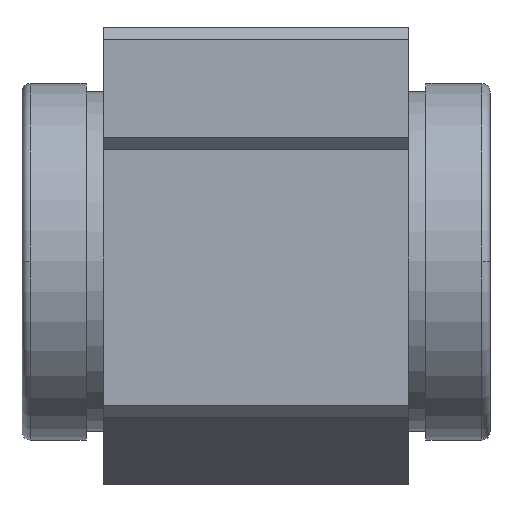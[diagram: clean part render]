
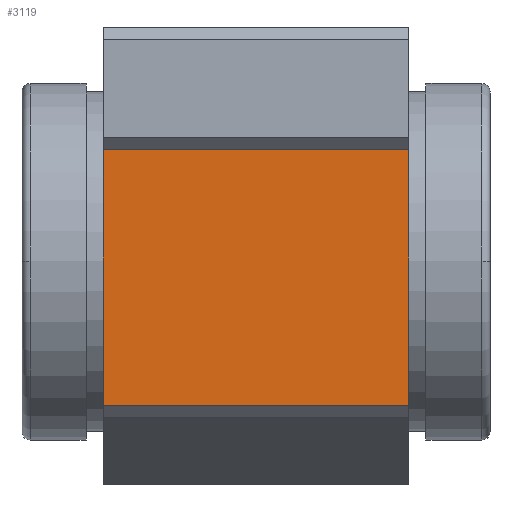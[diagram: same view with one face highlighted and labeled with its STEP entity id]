
A CAD part, top view. The second image highlights one B-rep face of the part: STEP entity #3119.
In plain terms, the highlighted planar face has unit normal (0, 0, 1).
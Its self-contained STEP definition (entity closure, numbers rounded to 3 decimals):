
#859 = PLANE('',#860);
#860 = AXIS2_PLACEMENT_3D('',#861,#862,#863);
#861 = CARTESIAN_POINT('',(13.7,2.686,0.));
#862 = DIRECTION('',(1.,0.,0.));
#863 = DIRECTION('',(0.,0.,-1.));
#975 = PLANE('',#976);
#976 = AXIS2_PLACEMENT_3D('',#977,#978,#979);
#977 = CARTESIAN_POINT('',(-13.7,2.686,0.));
#978 = DIRECTION('',(1.,0.,0.));
#979 = DIRECTION('',(0.,0.,-1.));
#3010 = PLANE('',#3011);
#3011 = AXIS2_PLACEMENT_3D('',#3012,#3013,#3014);
#3012 = CARTESIAN_POINT('',(-13.7,-13.46,25.38));
#3013 = DIRECTION('',(0.,-0.707,0.707)
  );
#3014 = DIRECTION('',(0.,-0.707,-0.707)
  );
#3048 = VERTEX_POINT('',#3049);
#3049 = CARTESIAN_POINT('',(13.7,-12.92,25.92));
#3070 = EDGE_CURVE('',#3071,#3048,#3073,.T.);
#3071 = VERTEX_POINT('',#3072);
#3072 = CARTESIAN_POINT('',(-13.7,-12.92,25.92));
#3073 = SURFACE_CURVE('',#3074,(#3078,#3085),.PCURVE_S1.);
#3074 = LINE('',#3075,#3076);
#3075 = CARTESIAN_POINT('',(-13.7,-12.92,25.92));
#3076 = VECTOR('',#3077,1.);
#3077 = DIRECTION('',(1.,0.,0.));
#3078 = PCURVE('',#3010,#3079);
#3079 = DEFINITIONAL_REPRESENTATION('',(#3080),#3084);
#3080 = LINE('',#3081,#3082);
#3081 = CARTESIAN_POINT('',(-0.764,0.));
#3082 = VECTOR('',#3083,1.);
#3083 = DIRECTION('',(0.,1.));
#3084 = ( GEOMETRIC_REPRESENTATION_CONTEXT(2) 
PARAMETRIC_REPRESENTATION_CONTEXT() REPRESENTATION_CONTEXT('2D SPACE',''
  ) );
#3085 = PCURVE('',#3086,#3091);
#3086 = PLANE('',#3087);
#3087 = AXIS2_PLACEMENT_3D('',#3088,#3089,#3090);
#3088 = CARTESIAN_POINT('',(-13.7,-1.46,25.92));
#3089 = DIRECTION('',(0.,0.,1.));
#3090 = DIRECTION('',(0.,-1.,0.));
#3091 = DEFINITIONAL_REPRESENTATION('',(#3092),#3096);
#3092 = LINE('',#3093,#3094);
#3093 = CARTESIAN_POINT('',(11.46,0.));
#3094 = VECTOR('',#3095,1.);
#3095 = DIRECTION('',(0.,1.));
#3096 = ( GEOMETRIC_REPRESENTATION_CONTEXT(2) 
PARAMETRIC_REPRESENTATION_CONTEXT() REPRESENTATION_CONTEXT('2D SPACE',''
  ) );
#3119 = ADVANCED_FACE('',(#3120),#3086,.T.);
#3120 = FACE_BOUND('',#3121,.T.);
#3121 = EDGE_LOOP('',(#3122,#3145,#3173,#3194));
#3122 = ORIENTED_EDGE('',*,*,#3123,.T.);
#3123 = EDGE_CURVE('',#3048,#3124,#3126,.T.);
#3124 = VERTEX_POINT('',#3125);
#3125 = CARTESIAN_POINT('',(13.7,10.,25.92));
#3126 = SURFACE_CURVE('',#3127,(#3131,#3138),.PCURVE_S1.);
#3127 = LINE('',#3128,#3129);
#3128 = CARTESIAN_POINT('',(13.7,10.,25.92));
#3129 = VECTOR('',#3130,1.);
#3130 = DIRECTION('',(0.,1.,0.));
#3131 = PCURVE('',#3086,#3132);
#3132 = DEFINITIONAL_REPRESENTATION('',(#3133),#3137);
#3133 = LINE('',#3134,#3135);
#3134 = CARTESIAN_POINT('',(-11.46,27.4));
#3135 = VECTOR('',#3136,1.);
#3136 = DIRECTION('',(-1.,0.));
#3137 = ( GEOMETRIC_REPRESENTATION_CONTEXT(2) 
PARAMETRIC_REPRESENTATION_CONTEXT() REPRESENTATION_CONTEXT('2D SPACE',''
  ) );
#3138 = PCURVE('',#859,#3139);
#3139 = DEFINITIONAL_REPRESENTATION('',(#3140),#3144);
#3140 = LINE('',#3141,#3142);
#3141 = CARTESIAN_POINT('',(-25.92,7.314));
#3142 = VECTOR('',#3143,1.);
#3143 = DIRECTION('',(0.,1.));
#3144 = ( GEOMETRIC_REPRESENTATION_CONTEXT(2) 
PARAMETRIC_REPRESENTATION_CONTEXT() REPRESENTATION_CONTEXT('2D SPACE',''
  ) );
#3145 = ORIENTED_EDGE('',*,*,#3146,.F.);
#3146 = EDGE_CURVE('',#3147,#3124,#3149,.T.);
#3147 = VERTEX_POINT('',#3148);
#3148 = CARTESIAN_POINT('',(-13.7,10.,25.92));
#3149 = SURFACE_CURVE('',#3150,(#3154,#3161),.PCURVE_S1.);
#3150 = LINE('',#3151,#3152);
#3151 = CARTESIAN_POINT('',(-13.7,10.,25.92));
#3152 = VECTOR('',#3153,1.);
#3153 = DIRECTION('',(1.,0.,0.));
#3154 = PCURVE('',#3086,#3155);
#3155 = DEFINITIONAL_REPRESENTATION('',(#3156),#3160);
#3156 = LINE('',#3157,#3158);
#3157 = CARTESIAN_POINT('',(-11.46,0.));
#3158 = VECTOR('',#3159,1.);
#3159 = DIRECTION('',(0.,1.));
#3160 = ( GEOMETRIC_REPRESENTATION_CONTEXT(2) 
PARAMETRIC_REPRESENTATION_CONTEXT() REPRESENTATION_CONTEXT('2D SPACE',''
  ) );
#3161 = PCURVE('',#3162,#3167);
#3162 = PLANE('',#3163);
#3163 = AXIS2_PLACEMENT_3D('',#3164,#3165,#3166);
#3164 = CARTESIAN_POINT('',(-13.7,10.54,26.46));
#3165 = DIRECTION('',(0.,-0.707,0.707)
  );
#3166 = DIRECTION('',(0.,-0.707,-0.707)
  );
#3167 = DEFINITIONAL_REPRESENTATION('',(#3168),#3172);
#3168 = LINE('',#3169,#3170);
#3169 = CARTESIAN_POINT('',(0.764,0.));
#3170 = VECTOR('',#3171,1.);
#3171 = DIRECTION('',(0.,1.));
#3172 = ( GEOMETRIC_REPRESENTATION_CONTEXT(2) 
PARAMETRIC_REPRESENTATION_CONTEXT() REPRESENTATION_CONTEXT('2D SPACE',''
  ) );
#3173 = ORIENTED_EDGE('',*,*,#3174,.T.);
#3174 = EDGE_CURVE('',#3147,#3071,#3175,.T.);
#3175 = SURFACE_CURVE('',#3176,(#3180,#3187),.PCURVE_S1.);
#3176 = LINE('',#3177,#3178);
#3177 = CARTESIAN_POINT('',(-13.7,10.,25.92));
#3178 = VECTOR('',#3179,1.);
#3179 = DIRECTION('',(0.,-1.,0.));
#3180 = PCURVE('',#3086,#3181);
#3181 = DEFINITIONAL_REPRESENTATION('',(#3182),#3186);
#3182 = LINE('',#3183,#3184);
#3183 = CARTESIAN_POINT('',(-11.46,0.));
#3184 = VECTOR('',#3185,1.);
#3185 = DIRECTION('',(1.,0.));
#3186 = ( GEOMETRIC_REPRESENTATION_CONTEXT(2) 
PARAMETRIC_REPRESENTATION_CONTEXT() REPRESENTATION_CONTEXT('2D SPACE',''
  ) );
#3187 = PCURVE('',#975,#3188);
#3188 = DEFINITIONAL_REPRESENTATION('',(#3189),#3193);
#3189 = LINE('',#3190,#3191);
#3190 = CARTESIAN_POINT('',(-25.92,7.314));
#3191 = VECTOR('',#3192,1.);
#3192 = DIRECTION('',(0.,-1.));
#3193 = ( GEOMETRIC_REPRESENTATION_CONTEXT(2) 
PARAMETRIC_REPRESENTATION_CONTEXT() REPRESENTATION_CONTEXT('2D SPACE',''
  ) );
#3194 = ORIENTED_EDGE('',*,*,#3070,.T.);
